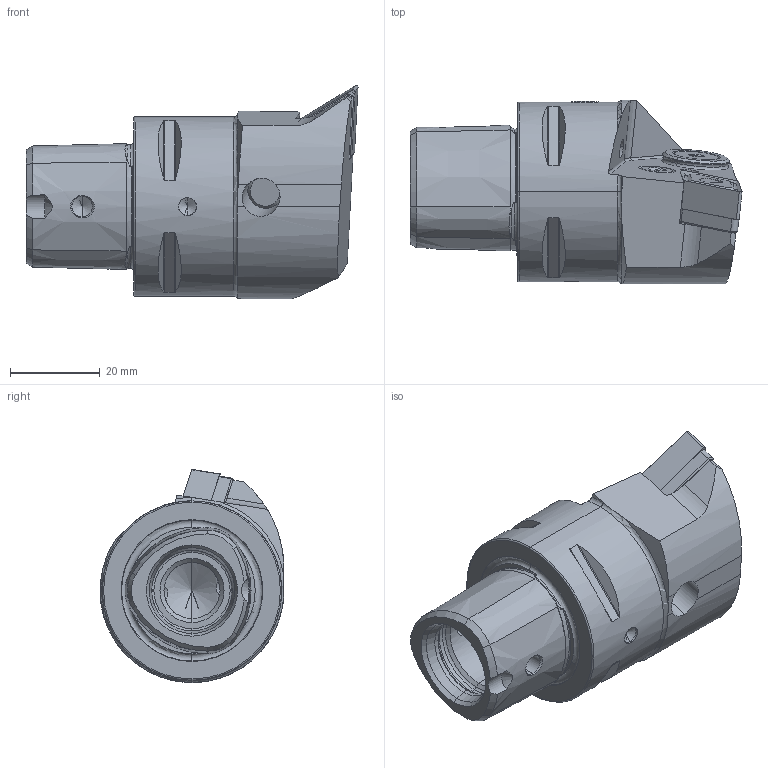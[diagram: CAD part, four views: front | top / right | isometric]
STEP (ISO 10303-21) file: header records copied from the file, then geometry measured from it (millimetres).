
FILE_DESCRIPTION (( 'STEP AP214' ), '1' );
FILE_NAME ('PS4.PDF.LUA.050-HP.STEP', '2020-09-11T11:42:38', ( '' ), ( '' ), 'SwSTEP 2.0', 'SolidWorks 2017', '' );
FILE_SCHEMA (( 'AUTOMOTIVE_DESIGN' ));
Length unit declared in the file: millimetre
Products named in the file (13): ISO 8752 2x8; PS4.PDF.LUA.050-HP; WCD-ER1.101.000; DIN 7991 - M5x15; DNMG150604; WDF-ER3.101.000_A; CHP-ER1.008.011_A; PS4-PDF.LUA.050-HP_B; CHP-ER1.015.006; WDF-ER2.101.003_A; CHP-ER1.015.006_A; DIN 3771 - 13x1; WCD-ER4.101.017_A
Assembly tree (12 placements, depth 3):
  PS4.PDF.LUA.050-HP
    PS4-PDF.LUA.050-HP_B
    DNMG150604
    WDF-ER3.101.000_A
    WCD-ER1.101.000
    WCD-ER4.101.017_A
    WDF-ER2.101.003_A
    CHP-ER1.008.011_A
    CHP-ER1.015.006
      CHP-ER1.015.006_A
      DIN 3771 - 13x1
      DIN 7991 - M5x15
    ISO 8752 2x8
Bounding box: 73.99 x 41 x 47.49 mm (x, y, z)
Volume: 56385.1 mm3; surface area: 18975 mm2
Topology: 11 solids, 11 shells, 456 faces, 1098 edges, 652 vertices
Faces by surface type: cone 139, plane 132, cylinder 112, torus 61, bspline 12
Entity records: 15045 total; most frequent: CARTESIAN_POINT 4109, DIRECTION 2188, ORIENTED_EDGE 2148, EDGE_CURVE 1074, AXIS2_PLACEMENT_3D 873, VERTEX_POINT 652, EDGE_LOOP 488, ADVANCED_FACE 456
